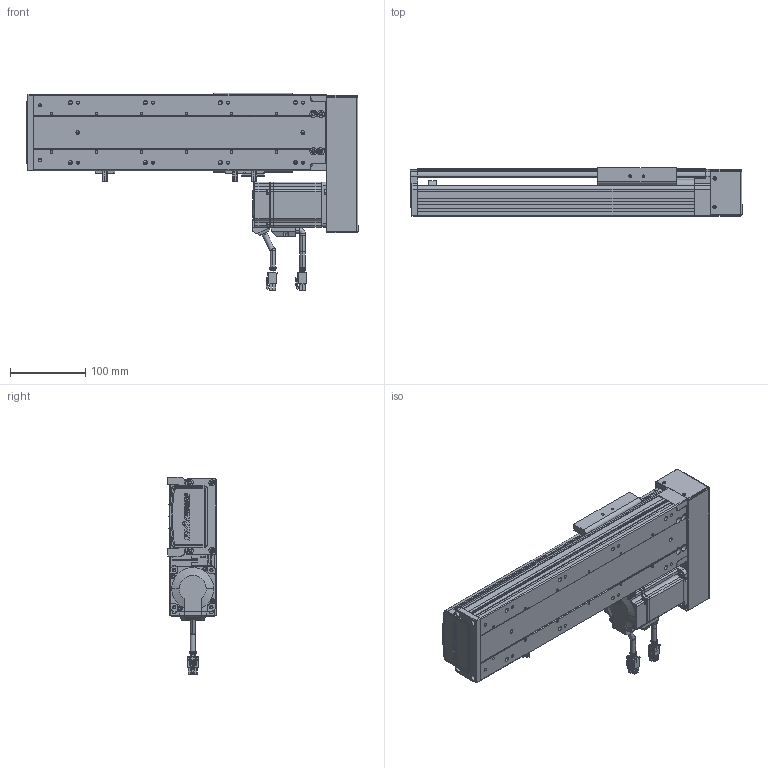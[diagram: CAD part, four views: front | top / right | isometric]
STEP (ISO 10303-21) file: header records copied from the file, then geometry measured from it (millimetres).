
FILE_DESCRIPTION (( 'STEP AP203' ), '1' );
FILE_NAME ('RY100S-L1620-300-RK(15双轨).SLDASM_200.step', '2021-02-20T08:47:41', ( '盈信电脑' ), ( '东莞市道滘镇水果街19号' ), 'SwSTEP 2.0', 'SolidWorks 2012', '' );
FILE_SCHEMA (( 'CONFIG_CONTROL_DESIGN' ));
Length unit declared in the file: millimetre
Products named in the file (25): RY100S-L1620-300-RK(15邧寢).SLDASM_200; RY100S铝滑块（15双轨单滑块）底组装导轨; 蚾饜极1^RY100S-L1620-300-RK(15邧寢); 侂狟200W萇儂; 3M30喘15遵; 7; 5; 4; 6; 3; 肮祭湍3M遵15笚酗282; 1; 2; RY100S转折电机安装板（15双轨）; RY80肮祭湍覃踡啣; RY80肮祭湍芢雄輸; RY100S左右折电机罩（15双轨）; RY100S转折电机端支撑座(15双轨); RY100俋离覜茼え; 滅袉蝶18-24; RY100綴裔啣; RY100S-350-LK型材底座(低组15双轨)_200; RY100S-300-LK转折型材上盖(15双轨)_200; 滅袉蝶18-10; 覜茼ん672
Assembly tree (27 placements, depth 4):
  RY100S-L1620-300-RK(15邧寢).SLDASM_200
    RY100S-350-LK型材底座(低组15双轨)_200
    RY100S-300-LK转折型材上盖(15双轨)_200
    覜茼ん672  x3
    滅袉蝶18-10
    RY100俋离覜茼え
    RY100S转折电机端支撑座(15双轨)
    滅袉蝶18-24
    RY100綴裔啣
    蚾饜极1^RY100S-L1620-300-RK(15邧寢)
      RY80肮祭湍覃踡啣
      RY80肮祭湍芢雄輸  x2
      RY100S左右折电机罩（15双轨）
      RY100S转折电机安装板（15双轨）
      肮祭湍3M遵15笚酗282
      侂狟200W萇儂
        1
        2
        3
        4
        5
        6
        7
      3M30喘15遵
    RY100S铝滑块（15双轨单滑块）底组装导轨
Bounding box: 442.5 x 65 x 263.3 mm (x, y, z)
Volume: 1433919.8 mm3; surface area: 526221.2 mm2
Topology: 25 solids, 25 shells, 3108 faces, 8341 edges, 5370 vertices
Faces by surface type: plane 1670, cylinder 1155, cone 169, bspline 114
Entity records: 100431 total; most frequent: CARTESIAN_POINT 24746, ORIENTED_EDGE 15386, DIRECTION 14982, EDGE_CURVE 7693, AXIS2_PLACEMENT_3D 5077, VERTEX_POINT 5006, LINE 4828, VECTOR 4828
